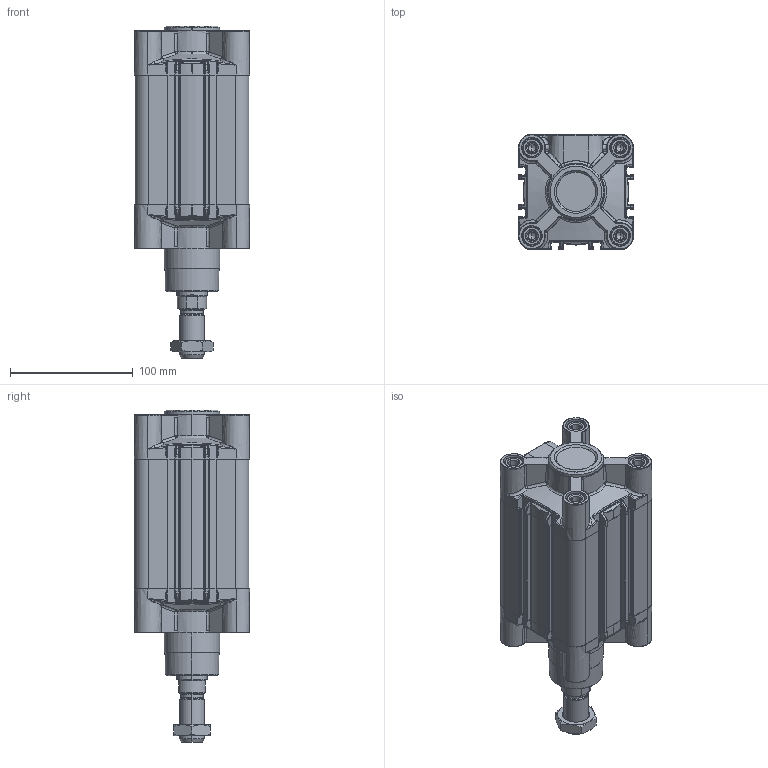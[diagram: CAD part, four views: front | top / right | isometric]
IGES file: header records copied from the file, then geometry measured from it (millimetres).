
Start section: SolidWorks IGES file using analytic representation for surfaces
Global section: file name: K:\Disegni Esecutivi\Cilindri\2_DISEGNI_cilindri_in_produzione\15_IGES cilindri per sito INTERNET-AIGNEP\iges ISO 15552\iges cilindro iso 15552\XB\XB080\XB0800025A.igs; native system: SolidWorks 2011; preprocessor: SolidWorks 2011; author: cad01; date: 110415.135711; units: millimetre
Bounding box: 93.98 x 93.98 x 271 mm (x, y, z)
Surface area: 224523.8 mm2 (no closed solid volume)
Topology: 0 solids, 0 shells, 1578 faces, 15921 edges, 15835 vertices
Faces by surface type: bspline 869, revolution 709
